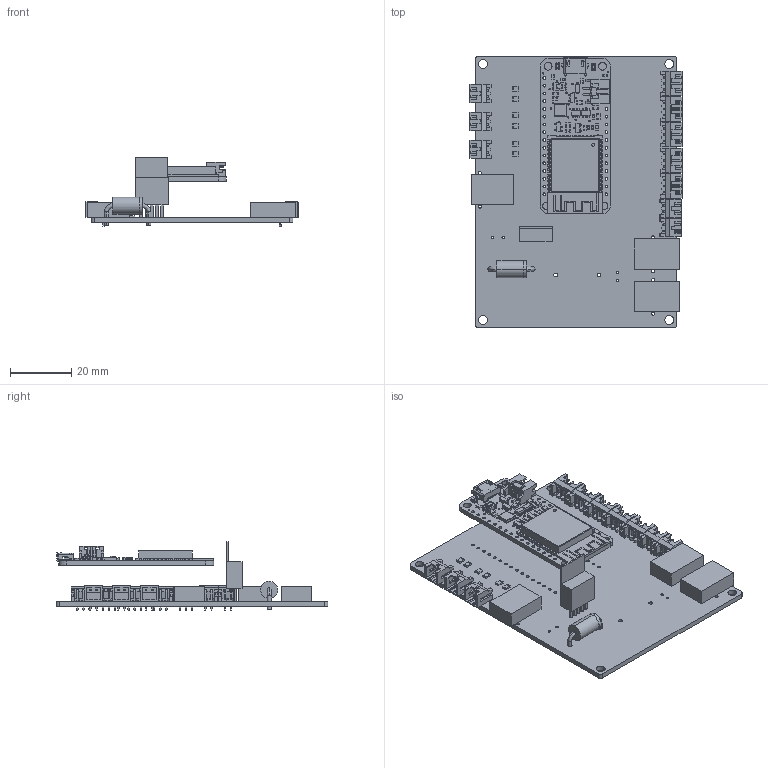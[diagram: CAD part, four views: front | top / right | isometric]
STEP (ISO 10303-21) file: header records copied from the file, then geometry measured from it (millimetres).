
FILE_DESCRIPTION(('Open CASCADE Model'),'2;1');
FILE_NAME('Open CASCADE Shape Model','2021-02-16T11:16:21',('Author'),( 'Open CASCADE'),'Open CASCADE STEP processor 6.5','Open CASCADE 6.5' ,'Unknown');
FILE_SCHEMA(('AUTOMOTIVE_DESIGN { 1 0 10303 214 1 1 1 1 }'));
Length unit declared in the file: millimetre
Products named in the file (59): PCB; Board; J13; 1328274688; Extruded; J12; J11; DF3-2P-2DS; J10; J8; DF3-3P-2DS; J7; J6; J5; J3; 1328274816; J2; R6; 1328274560; 1328274944; R5; R4; R3; R2; R1; U1; 1328274176; 1328274304; 1328274432; D1; DO-201AD_Horizontal; User_Library-Diod_DO-201AD_Horizontal_Diod_DO-201AD_Part1; User_Library-Diod_DO-201AD_Horizontal_Diod_DO-201AD_Part2; J1; J4; J9; U2; 3405_Adafruit_HUZZAH32_ESP32_Feather; PCB_Component; 0805-NO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
Assembly tree (103 placements, depth 5):
  PCB
    Board
    J13
      1328274688
        Extruded
    J12
      1328274688
        Extruded
    J11
      DF3-2P-2DS
    J10
      DF3-2P-2DS
    J8
      DF3-3P-2DS
    J7
      DF3-3P-2DS
    J6
      DF3-3P-2DS
    J5
      DF3-3P-2DS
    J3
      1328274816
        Extruded
    J2
      DF3-2P-2DS
    R6
      1328274560
        Extruded
      1328274944  x2
        Extruded
    R5
      1328274560
        Extruded
      1328274944  x2
        Extruded
    R4
      1328274560
        Extruded
      1328274944  x2
        Extruded
    R3
      1328274560
        Extruded
      1328274944  x2
        Extruded
    R2
      1328274560
        Extruded
      1328274944  x2
        Extruded
    R1
      1328274560
        Extruded
      1328274944  x2
        Extruded
    U1
      1328274176  x5
        Extruded
      1328274304
        Extruded
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Bounding box: 69.43 x 88.9 x 22.49 mm (x, y, z)
Volume: 16531.4 mm3; surface area: 24376.2 mm2
Topology: 88 solids, 88 shells, 3775 faces, 10549 edges, 6764 vertices
Faces by surface type: plane 3087, cylinder 646, bspline 22, sphere 8, torus 6, cone 6
Full cylindrical faces by diameter (mm): 0.394 x1, 0.483 x6, 0.5 x91, 0.7 x2, 0.8 x31, 0.9 x56, 1 x7, 1.1 x5, 1.27 x2, 1.524 x2, 1.7 x6, 2.2 x2, 2.5 x2, 2.921 x4
Entity records: 167331 total; most frequent: CARTESIAN_POINT 42996, DIRECTION 21035, LINE 14042, VECTOR 14042, ORIENTED_EDGE 12084, PCURVE 12084, DEFINITIONAL_REPRESENTATION 12084, EDGE_CURVE 6042
